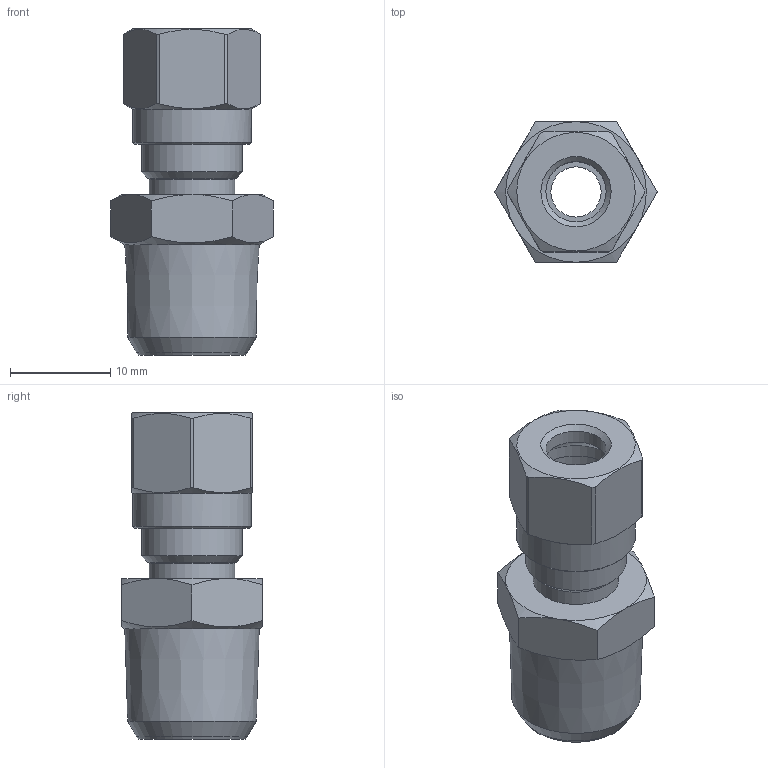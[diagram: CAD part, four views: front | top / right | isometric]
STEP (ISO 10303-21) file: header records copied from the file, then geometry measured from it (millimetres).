
FILE_DESCRIPTION(('Bauteilbeschreibung','HiCAD-Model','HiCAD-STEP-TRANSLATION','Bauteilbeschreibung'),'2;1');
FILE_NAME('B:/ABGLEICH/ZEICHNUNGEN/STEP FÜR INTERNET/STEP/201/94803_201_6_1-4.STP','2011-11-09T14:50:04+00:00',('Konstrukteur'),('Konstrukteur Firma GmbH'),' HiCAD neXt 2008, Step 3.1.1401.2J ','HiCAD neXt 2008','confidential');
FILE_SCHEMA(('AUTOMOTIVE_DESIGN { 1 2 10303 214 0 1 1 1 }'));
Length unit declared in the file: millimetre
Products named in the file (8): A4803_201_6_1_4; A4803S; A4803S0; DIN 13_M10X1; R 1_4; A6802; A68020; DIN0130M10X1
Assembly tree (7 placements, depth 3):
  A4803_201_6_1_4
    A4803S
    A4803S0
      DIN 13_M10X1
      R 1_4
    A6802
    A68020
      DIN0130M10X1
Bounding box: 16.17 x 14 x 32.5 mm (x, y, z)
Volume: 2635.2 mm3; surface area: 4196.7 mm2
Topology: 5 solids, 5 shells, 67 faces, 151 edges, 94 vertices
Faces by surface type: cone 26, plane 22, cylinder 19
Full cylindrical faces by diameter (mm): 5 x1, 6 x2, 8 x1, 8.5 x1, 8.773 x4, 10 x3, 11.8 x1
Entity records: 2334 total; most frequent: CARTESIAN_POINT 331, DIRECTION 298, ORIENTED_EDGE 214, AXIS2_PLACEMENT_3D 140, COLOUR_RGB 112, PRESENTATION_STYLE_ASSIGNMENT 112, EDGE_LOOP 110, CURVE_STYLE 107
